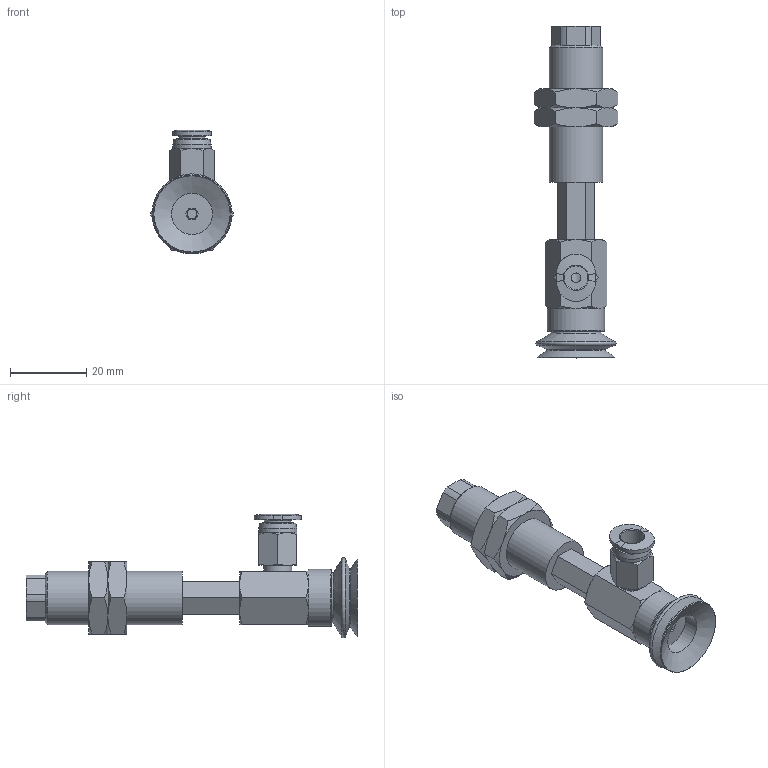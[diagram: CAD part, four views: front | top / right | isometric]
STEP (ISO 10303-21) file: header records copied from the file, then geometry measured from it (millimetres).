
FILE_DESCRIPTION(('STEP AP203'),'1');
FILE_NAME('-O.stp','2025-04-24T07:00:37',(' '),(' '),'Spatial InterOp 3D',' ',' ');
FILE_SCHEMA(('CONFIG_CONTROL_DESIGN'));
Length unit declared in the file: millimetre
Products named in the file (8): BNABPJYH-20-15-※-O; Adapter-20-NAPJ; CONNECTOR_H-20-15; NAPJH-20-15-NUT; NAPJTH-20-15-FBODY; NAPJTH-20-15-MBODY; BPJG-20-※; PC-C_06-M5
Assembly tree (8 placements, depth 2):
  BNABPJYH-20-15-※-O
    Adapter-20-NAPJ
    CONNECTOR_H-20-15
    NAPJH-20-15-NUT  x2
    NAPJTH-20-15-FBODY
    NAPJTH-20-15-MBODY
    BPJG-20-※
    PC-C_06-M5
Bounding box: 21.94 x 87 x 32.48 mm (x, y, z)
Volume: 13212.4 mm3; surface area: 11715.9 mm2
Topology: 7 solids, 10 shells, 204 faces, 442 edges, 271 vertices
Faces by surface type: plane 89, cone 70, cylinder 29, torus 9, bspline 4, revolution 3
Full cylindrical faces by diameter (mm): 2.5 x1, 3 x1, 4 x2, 4.134 x3, 4.6 x1, 5 x3, 7 x1, 7.4 x1, 8.2 x1, 10 x1, 10.8 x1, 11 x1, 13.188 x2, 14 x1, 15 x1
Entity records: 5494 total; most frequent: CARTESIAN_POINT 1475, DIRECTION 747, ORIENTED_EDGE 668, EDGE_CURVE 336, AXIS2_PLACEMENT_3D 308, EDGE_LOOP 258, VERTEX_POINT 234, FACE_OUTER_BOUND 150
